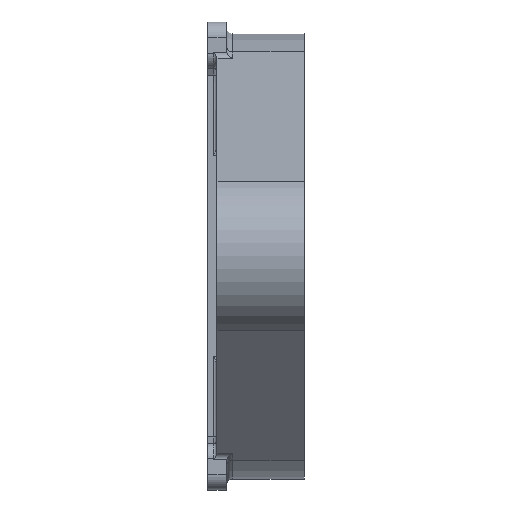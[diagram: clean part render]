
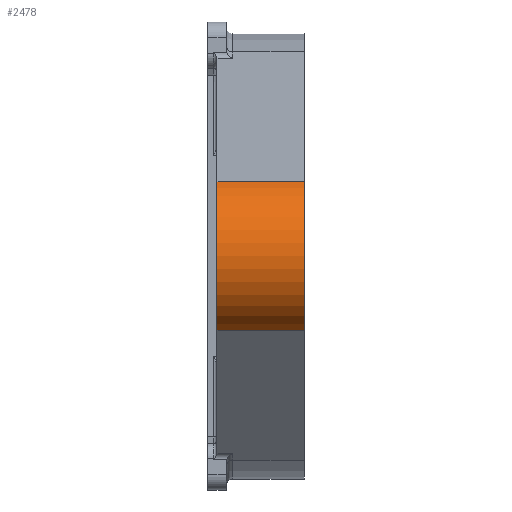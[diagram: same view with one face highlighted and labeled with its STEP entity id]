
A CAD part, left-side view. The second image highlights one B-rep face of the part: STEP entity #2478.
In plain terms, the highlighted cylindrical face has radius 26 mm (diameter 52 mm), a partial arc.
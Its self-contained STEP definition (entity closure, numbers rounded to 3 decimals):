
#33 = AXIS2_PLACEMENT_3D ( 'NONE', #847, #1796, #2533 ) ;
#82 = LINE ( 'NONE', #765, #335 ) ;
#214 = DIRECTION ( 'NONE',  ( 0., 0., -1. ) ) ;
#285 = VERTEX_POINT ( 'NONE', #2121 ) ;
#334 = CIRCLE ( 'NONE', #33, 26. ) ;
#335 = VECTOR ( 'NONE', #2996, 1000. ) ;
#567 = ORIENTED_EDGE ( 'NONE', *, *, #827, .T. ) ;
#600 = CARTESIAN_POINT ( 'NONE',  ( -123.469, 28., 23.799 ) ) ;
#617 = EDGE_CURVE ( 'NONE', #907, #1799, #2276, .T. ) ;
#645 = DIRECTION ( 'NONE',  ( 0., 0., 1. ) ) ;
#716 = CARTESIAN_POINT ( 'NONE',  ( -123.469, 0., 23.799 ) ) ;
#765 = CARTESIAN_POINT ( 'NONE',  ( -123.469, 28., -23.799 ) ) ;
#827 = EDGE_CURVE ( 'NONE', #1758, #285, #82, .T. ) ;
#847 = CARTESIAN_POINT ( 'NONE',  ( -113., 28., 0. ) ) ;
#862 = CIRCLE ( 'NONE', #1489, 26. ) ;
#907 = VERTEX_POINT ( 'NONE', #600 ) ;
#917 = AXIS2_PLACEMENT_3D ( 'NONE', #2171, #920, #214 ) ;
#920 = DIRECTION ( 'NONE',  ( 0., -1., 0. ) ) ;
#1049 = DIRECTION ( 'NONE',  ( 0., -1., 0. ) ) ;
#1142 = DIRECTION ( 'NONE',  ( 0., 1., 0. ) ) ;
#1489 = AXIS2_PLACEMENT_3D ( 'NONE', #2127, #1142, #645 ) ;
#1557 = ORIENTED_EDGE ( 'NONE', *, *, #1749, .F. ) ;
#1569 = CARTESIAN_POINT ( 'NONE',  ( -123.469, 28., -23.799 ) ) ;
#1749 = EDGE_CURVE ( 'NONE', #1758, #907, #334, .T. ) ;
#1758 = VERTEX_POINT ( 'NONE', #1569 ) ;
#1787 = ORIENTED_EDGE ( 'NONE', *, *, #2187, .T. ) ;
#1796 = DIRECTION ( 'NONE',  ( 0., 1., 0. ) ) ;
#1799 = VERTEX_POINT ( 'NONE', #716 ) ;
#1894 = FACE_OUTER_BOUND ( 'NONE', #3046, .T. ) ;
#2121 = CARTESIAN_POINT ( 'NONE',  ( -123.469, 0., -23.799 ) ) ;
#2127 = CARTESIAN_POINT ( 'NONE',  ( -113., 0., 0. ) ) ;
#2171 = CARTESIAN_POINT ( 'NONE',  ( -113., 28., 0. ) ) ;
#2187 = EDGE_CURVE ( 'NONE', #285, #1799, #862, .T. ) ;
#2188 = ORIENTED_EDGE ( 'NONE', *, *, #617, .F. ) ;
#2276 = LINE ( 'NONE', #2967, #2720 ) ;
#2478 = ADVANCED_FACE ( 'NONE', ( #1894 ), #3117, .T. ) ;
#2533 = DIRECTION ( 'NONE',  ( 0., 0., 1. ) ) ;
#2720 = VECTOR ( 'NONE', #1049, 1000. ) ;
#2967 = CARTESIAN_POINT ( 'NONE',  ( -123.469, 28., 23.799 ) ) ;
#2996 = DIRECTION ( 'NONE',  ( 0., -1., 0. ) ) ;
#3046 = EDGE_LOOP ( 'NONE', ( #1787, #2188, #1557, #567 ) ) ;
#3117 = CYLINDRICAL_SURFACE ( 'NONE', #917, 26. ) ;
